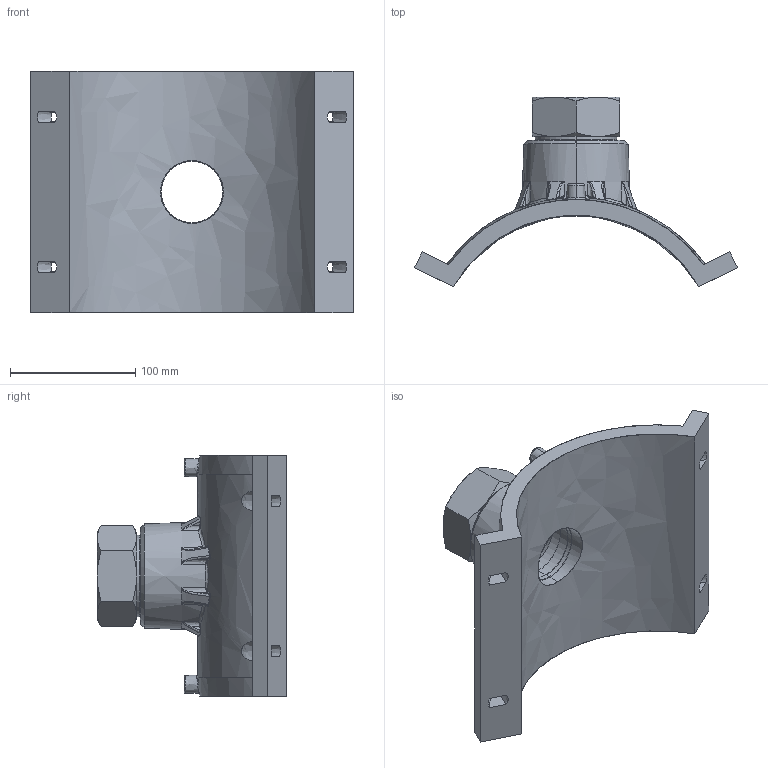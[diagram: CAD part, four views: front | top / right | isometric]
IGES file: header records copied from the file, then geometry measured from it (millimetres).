
Start section:  PTC IGES file: vam-rg_d225_2_01.igs
Global section: file name: vam-rg_d225_2_01.igs; native system: Pro/ENGINEER by Parametric Technology Corporation; preprocessor: 2011490; author: mtunjic; organization: Unknown; date: 20130909.103213; units: millimetre
Bounding box: 258 x 151.5 x 192.5 mm (x, y, z)
Surface area: 169986.1 mm2 (no closed solid volume)
Topology: 0 solids, 0 shells, 436 faces, 2198 edges, 2198 vertices
Faces by surface type: bspline 436
